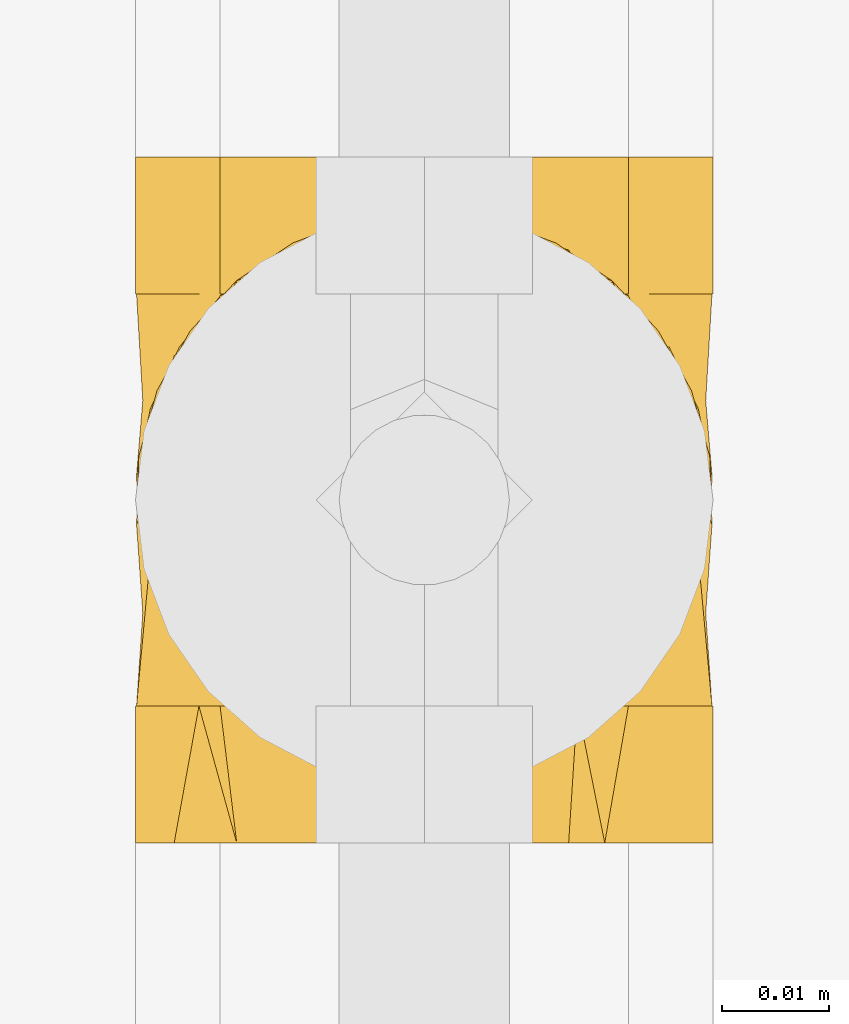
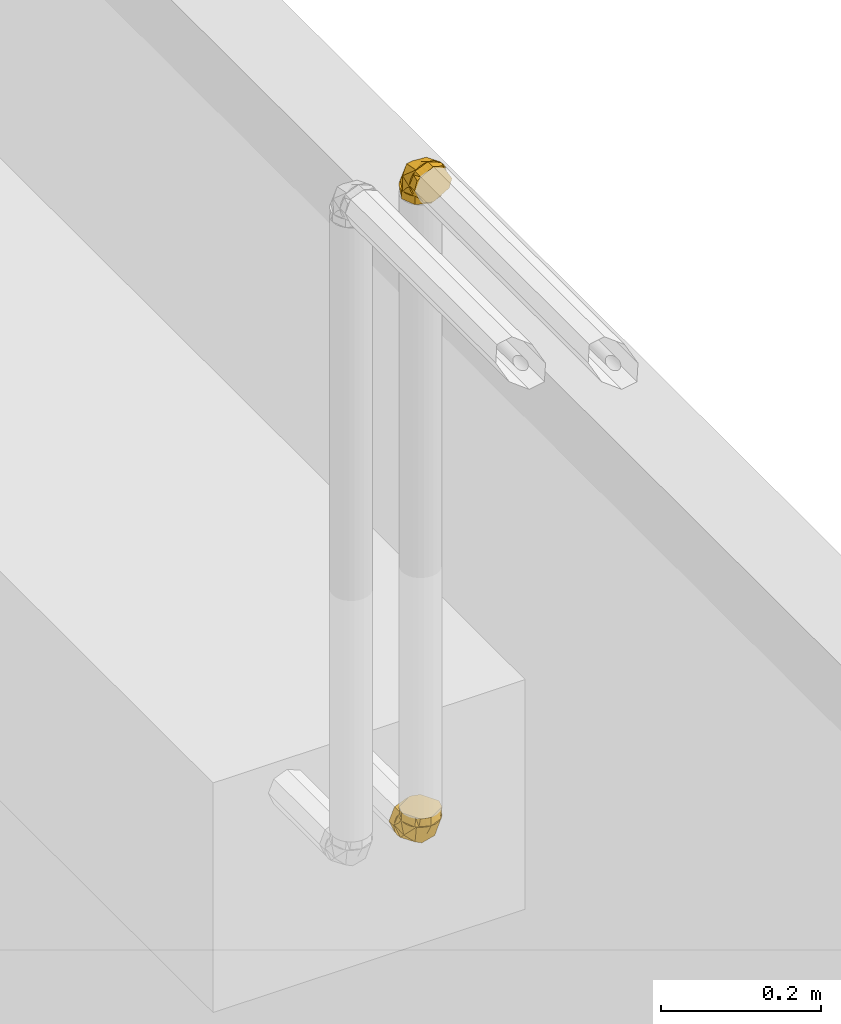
# One storey, part 370 of 652: 2 coverings.
"""IFC2X3 building model written with IfcOpenShell, lengths in millimetres."""

from ifc_helpers import new_model, entity, si_unit, converted_unit, direction, frame, origin, place, context, subcontext, project, spatial, face_set, surface_model, material, type_object, element, save


model = new_model("IFC2X3")

# Units and contexts
model_context = context("Model", 3, precision=0.01, world=frame((0.0, 0.0, 308426.39999999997)), true_north=direction((6.123233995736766e-17, 1.0)))
plan_context = context("Plan", 3, precision=0.01, world=frame((0.0, 0.0, 308426.39999999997)), true_north=direction((6.123233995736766e-17, 1.0)))
body_context = subcontext(model_context, "Body", "Model", "MODEL_VIEW")
ifc_project = project(units=[si_unit("LENGTHUNIT", "METRE", prefix="MILLI"), si_unit("AREAUNIT", "SQUARE_METRE"), si_unit("VOLUMEUNIT", "CUBIC_METRE"), converted_unit("PLANEANGLEUNIT", "DEGREE", entity("IfcPlaneAngleMeasure", 0.017453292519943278), si_unit("PLANEANGLEUNIT", "RADIAN"), dimensions=[0, 0, 0, 0, 0, 0, 0])], contexts=[model_context, plan_context])

# Site, building, storey
site_placement = place(None, origin())
site = spatial("IfcSite", under=ifc_project, at=site_placement, Name="Default", CompositionType="ELEMENT")
building_placement = place(site_placement, origin())
building = spatial("IfcBuilding", under=site, at=building_placement, CompositionType="ELEMENT")
storey_placement = place(building_placement, frame((0.0, 0.0, 1730.6999999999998)))
storey = spatial("IfcBuildingStorey", under=building, at=storey_placement, Name="EG_Produktion_FFB", CompositionType="ELEMENT", Elevation=1730.6999999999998)

# Coverings
ifc_material = material(Name="Dämmung - Armaflex-Schlauch")
covering_type = type_object("IfcCoveringType", Name="Rohrdämmung außen:Armaflex-Schlauch", PredefinedType="INSULATION")
covering_1_placement = place(storey_placement, frame((66196.95799511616, 42487.64333489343, 2731.983750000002)))
element("IfcCovering", 1, at=covering_1_placement, inside=storey, type_object=covering_type, material=ifc_material, Name="Rohrdämmung außen:Armaflex-Schlauch", ObjectType="Rohrdämmung außen:Armaflex-Schlauch", PredefinedType="INSULATION", context=body_context, shape_type="SurfaceModel", body=[
    surface_model("IfcFaceBasedSurfaceModel", [(47.409122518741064, 47.75027223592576, -12.766249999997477), (5.678961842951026, 47.75027223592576, -17.724287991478), (2.973980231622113, 47.75027223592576, -23.47627931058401), (1.6920879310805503, 47.75027223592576, -29.701958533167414), (1.904659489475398, 47.75027223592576, -36.05468574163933), (3.599859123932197, 47.75027223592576, -42.180747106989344), (6.683299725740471, 47.75027223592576, -47.739049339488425), (10.983298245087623, 47.750272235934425, -52.42011143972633), (16.26043484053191, 47.750272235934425, -55.96329630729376), (22.220883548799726, 47.750272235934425, -58.17132276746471), (28.532772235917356, 47.750272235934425, -58.9212499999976), (34.844660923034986, 47.750272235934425, -58.17132276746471), (40.8051096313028, 47.750272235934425, -55.96329630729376), (46.08224622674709, 47.750272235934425, -52.42011143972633), (50.38224474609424, 47.75027223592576, -47.739049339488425), (53.465685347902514, 47.75027223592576, -42.180747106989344), (55.16088498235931, 47.75027223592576, -36.05468574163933), (55.37345654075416, 47.75027223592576, -29.701958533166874), (54.0915642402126, 47.75027223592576, -23.47627931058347), (51.38658262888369, 47.75027223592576, -17.724287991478), (9.65642195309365, 47.75027223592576, -12.766249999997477), (51.38658262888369, 42.79223424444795, -12.766249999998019), (54.0915642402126, 37.040242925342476, -12.766249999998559), (55.37345654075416, 30.81456370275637, -12.766249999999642), (55.16088498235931, 24.461836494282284, -12.766250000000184), (53.465685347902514, 18.33577512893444, -12.766250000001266), (50.38224474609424, 12.77747289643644, -12.766250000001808), (46.08224622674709, 8.09641079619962, -12.76625000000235), (40.8051096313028, 4.553225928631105, -12.766250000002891), (34.844660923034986, 2.345199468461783, -12.766250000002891), (28.532772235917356, 1.5952722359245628, -12.766250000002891), (22.220883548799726, 2.345199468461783, -12.766250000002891), (16.26043484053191, 4.553225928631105, -12.766250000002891), (10.983298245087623, 8.09641079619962, -12.76625000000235), (6.683299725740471, 12.77747289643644, -12.766250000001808), (3.599859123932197, 18.33577512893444, -12.766250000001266), (1.904659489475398, 24.461836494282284, -12.766250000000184), (1.6920879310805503, 30.81456370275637, -12.766249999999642), (2.973980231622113, 37.040242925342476, -12.766249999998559), (5.678961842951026, 42.79223424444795, -12.766249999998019), (54.78877002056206, 37.80747077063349, -21.446698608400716), (28.534558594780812, 24.673388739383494, -52.73752120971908), (50.72855273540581, 47.751049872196, -41.06090835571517), (53.46792041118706, 26.952319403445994, -33.56543563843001), (42.78020068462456, 17.334301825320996, -41.84167465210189), (28.534558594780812, 12.139270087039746, -31.029834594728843), (50.72855273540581, 19.455102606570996, -12.766123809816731), (14.28426562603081, 17.334301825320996, -41.84167465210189), (3.6011967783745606, 26.952319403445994, -33.56543563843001), (2.2756962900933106, 37.80747077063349, -21.446698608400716), (6.335913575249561, 19.455102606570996, -12.766123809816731), (6.335913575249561, 47.751049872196, -41.06090835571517), (28.532772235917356, 60.516522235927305, -58.92125000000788), (23.770850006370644, 60.516522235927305, -56.94879722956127), (19.008927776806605, 60.516522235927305, -54.97634445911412), (14.247005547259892, 60.516522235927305, -53.00389168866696), (9.485083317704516, 60.516522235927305, -51.03143891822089), (7.512630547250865, 60.516522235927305, -46.26951668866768), (5.540177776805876, 60.516522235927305, -41.50759445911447), (3.567725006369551, 60.516522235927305, -36.74567222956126), (1.5952722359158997, 60.516522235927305, -31.98375000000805), (3.567725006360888, 60.516522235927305, -27.22182777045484), (5.540177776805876, 60.516522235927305, -22.45990554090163), (7.512630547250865, 60.516522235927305, -17.697983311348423), (9.485083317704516, 60.516522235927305, -12.936061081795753), (14.247005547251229, 60.516522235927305, -10.963608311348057), (19.008927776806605, 60.516522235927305, -8.991155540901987), (23.770850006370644, 60.516522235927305, -7.018702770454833), (28.532772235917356, 60.516522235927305, -5.04625000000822), (33.29469446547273, 60.516522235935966, -7.018702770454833), (38.056616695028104, 60.516522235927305, -8.991155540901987), (42.81853892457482, 60.516522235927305, -10.963608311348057), (47.5804611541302, 60.516522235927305, -12.936061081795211), (49.55291392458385, 60.516522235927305, -17.69798331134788), (51.525366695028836, 60.516522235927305, -22.45990554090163), (53.497819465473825, 60.516522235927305, -27.22182777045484), (55.47027223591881, 60.516522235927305, -31.98375000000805), (53.497819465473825, 60.516522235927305, -36.74567222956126), (51.525366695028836, 60.516522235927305, -41.50759445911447), (49.55291392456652, 60.516522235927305, -46.26951668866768), (47.5804611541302, 60.516522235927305, -51.03143891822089), (42.81853892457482, 60.516522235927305, -53.00389168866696), (38.056616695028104, 60.516522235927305, -54.97634445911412), (33.29469446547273, 60.516522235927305, -56.94879722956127), (28.532772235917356, 47.75027223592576, -58.92125000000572), (33.29469446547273, 47.75027223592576, -56.94879722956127), (38.056616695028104, 47.75027223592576, -54.97634445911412), (42.81853892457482, 47.75027223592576, -53.00389168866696), (47.5804611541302, 47.75027223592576, -51.031438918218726), (49.96980627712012, 47.75027223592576, -45.26304951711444), (52.35915140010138, 47.75027223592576, -39.494660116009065), (55.47027223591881, 47.75027223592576, -31.983750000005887), (53.497819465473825, 47.75027223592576, -27.221827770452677), (51.525366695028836, 47.75027223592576, -22.459905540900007), (49.552913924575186, 47.75027223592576, -17.69798331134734), (47.5804611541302, 47.75027223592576, -12.936061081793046), (41.81207175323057, 47.75027223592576, -10.546715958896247), (36.04368235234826, 47.75027223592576, -8.157370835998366), (28.532772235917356, 47.75027223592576, -5.0462500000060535), (23.77085000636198, 47.75027223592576, -7.018702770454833), (19.008927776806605, 47.75027223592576, -8.991155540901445), (14.247005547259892, 47.75027223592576, -10.963608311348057), (9.485083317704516, 47.75027223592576, -12.936061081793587), (7.095738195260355, 47.75027223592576, -18.70445048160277), (4.706393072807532, 47.75027223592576, -24.472839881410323), (1.5952722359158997, 47.75027223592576, -31.983750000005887), (3.567725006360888, 47.75027223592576, -36.7456722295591), (5.540177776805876, 47.75027223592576, -41.507594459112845), (7.512630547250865, 47.75027223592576, -46.2695166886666), (9.485083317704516, 47.75027223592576, -51.031438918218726), (15.253472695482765, 47.75027223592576, -53.42078403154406), (21.021862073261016, 47.75027223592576, -55.8101291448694), (28.532772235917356, 1.5952722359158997, 0.0), (34.36491206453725, 4.962459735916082, 0.0), (40.197051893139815, 8.329647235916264, 0.0), (46.029191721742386, 11.696834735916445, 0.0), (51.86133155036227, 15.064022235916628, 0.0), (53.66580189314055, 21.79839723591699, 0.0), (55.47027223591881, 28.532772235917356, 0.0), (52.10308473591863, 34.36491206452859, 0.0), (48.73589723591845, 40.197051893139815, 0.0), (45.368709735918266, 46.02919172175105, 0.0), (42.00152223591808, 51.86133155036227, 0.0), (35.26714723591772, 53.66580189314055, 0.0), (28.532772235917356, 55.47027223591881, 0.0), (22.700632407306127, 52.10308473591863, 0.0), (16.868492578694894, 48.73589723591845, 0.0), (11.036352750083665, 45.368709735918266, 0.0), (5.204212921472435, 42.00152223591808, 0.0), (3.3997425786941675, 35.26714723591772, 0.0), (1.5952722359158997, 28.532772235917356, 0.0), (4.962459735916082, 22.700632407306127, 0.0), (8.329647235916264, 16.868492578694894, 0.0), (11.696834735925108, 11.036352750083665, 0.0), (15.064022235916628, 5.204212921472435, 0.0), (21.79839723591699, 3.3997425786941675, 0.0), (28.532772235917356, 1.5952722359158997, -12.766249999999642), (23.77085000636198, 3.567725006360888, -12.766249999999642), (19.008927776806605, 5.54017777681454, -12.766249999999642), (14.247005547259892, 7.512630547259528, -12.766249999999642), (9.485083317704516, 9.485083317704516, -12.766249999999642), (7.512630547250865, 14.247005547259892, -12.766249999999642), (5.540177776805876, 19.008927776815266, -12.766249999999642), (3.567725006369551, 23.77085000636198, -12.766249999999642), (1.5952722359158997, 28.532772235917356, -12.766249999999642), (3.567725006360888, 33.29469446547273, -12.766249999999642), (5.540177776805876, 38.05661669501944, -12.766249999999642), (7.512630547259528, 42.81853892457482, -12.766249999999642), (9.485083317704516, 47.5804611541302, -12.766249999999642), (14.247005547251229, 49.552913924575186, -12.766249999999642), (19.008927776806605, 51.525366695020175, -12.766249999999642), (23.770850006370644, 53.49781946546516, -12.766249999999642), (28.532772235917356, 55.47027223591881, -12.766249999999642), (33.29469446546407, 53.497819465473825, -12.766249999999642), (38.056616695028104, 51.525366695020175, -12.766249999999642), (42.818538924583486, 49.552913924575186, -12.766249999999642), (47.5804611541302, 47.5804611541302, -12.766249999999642), (49.552913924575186, 42.81853892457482, -12.766249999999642), (51.525366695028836, 38.05661669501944, -12.766249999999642), (53.497819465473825, 33.29469446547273, -12.766249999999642), (55.47027223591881, 28.532772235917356, -12.766249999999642), (53.497819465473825, 23.77085000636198, -12.766249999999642), (51.525366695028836, 19.008927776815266, -12.766249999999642), (49.552913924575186, 14.247005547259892, -12.766249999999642), (47.5804611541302, 9.485083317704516, -12.766249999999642), (42.81853892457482, 7.512630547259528, -12.766249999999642), (38.056616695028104, 5.54017777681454, -12.766249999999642), (33.29469446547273, 3.567725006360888, -12.766249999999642)], [face_set([[[0, 1, 2, 3, 4, 5, 6, 7, 8, 9, 10, 11, 12, 13, 14, 15, 16, 17, 18, 19]], [[20, 21, 22, 23, 24, 25, 26, 27, 28, 29, 30, 31, 32, 33, 34, 35, 36, 37, 38, 39]], [[0, 40, 17]], [[10, 13, 41]], [[42, 17, 43]], [[40, 43, 17]], [[23, 40, 0]], [[13, 43, 44]], [[45, 41, 44]], [[13, 44, 41]], [[27, 30, 45]], [[45, 44, 27]], [[43, 27, 44]], [[43, 23, 46, 27]], [[43, 13, 42]], [[23, 43, 40]], [[7, 10, 41]], [[33, 47, 45]], [[45, 30, 33]], [[48, 47, 33]], [[49, 48, 37]], [[48, 50, 37]], [[45, 47, 41]], [[20, 49, 37]], [[47, 48, 7]], [[3, 49, 20]], [[41, 47, 7]], [[48, 3, 51]], [[48, 33, 50]], [[3, 48, 49]], [[51, 7, 48]]]), face_set([[[52, 53, 54, 55, 56, 57, 58, 59, 60, 61, 62, 63, 64, 65, 66, 67, 68, 69, 70, 71, 72, 73, 74, 75, 76, 77, 78, 79, 80, 81, 82, 83]], [[84, 85, 86, 87, 88, 89, 90, 91, 92, 93, 94, 95, 96, 97, 98, 99, 100, 101, 102, 103, 104, 105, 106, 107, 108, 109, 110, 111]], [[111, 110, 109, 56, 55, 54, 53, 52, 84]], [[56, 109, 108, 107, 106, 105, 60, 59, 58, 57]], [[104, 103, 102, 64, 63, 62, 61, 60, 105]], [[64, 102, 101, 100, 99, 98, 68, 67, 66, 65]], [[97, 96, 95, 72, 71, 70, 69, 68, 98]], [[72, 95, 94, 93, 92, 91, 76, 75, 74, 73]], [[90, 89, 88, 80, 79, 78, 77, 76, 91]], [[80, 88, 87, 86, 85, 84, 52, 83, 82, 81]]]), face_set([[[112, 113, 114, 115, 116, 117, 118, 119, 120, 121, 122, 123, 124, 125, 126, 127, 128, 129, 130, 131, 132, 133, 134, 135]], [[136, 137, 138, 139, 140, 141, 142, 143, 144, 145, 146, 147, 148, 149, 150, 151, 152, 153, 154, 155, 156, 157, 158, 159, 160, 161, 162, 163, 164, 165, 166, 167]], [[155, 121, 156]], [[118, 159, 119]], [[159, 158, 119]], [[123, 154, 153]], [[153, 152, 124]], [[121, 155, 122]], [[120, 158, 157]], [[118, 160, 159]], [[158, 120, 119]], [[124, 123, 153]], [[157, 156, 121]], [[155, 154, 122]], [[123, 122, 154]], [[120, 157, 121]], [[163, 115, 164]], [[112, 167, 113]], [[167, 166, 113]], [[117, 162, 161]], [[161, 160, 118]], [[115, 163, 116]], [[114, 166, 165]], [[112, 136, 167]], [[166, 114, 113]], [[118, 117, 161]], [[165, 164, 115]], [[163, 162, 116]], [[117, 116, 162]], [[114, 165, 115]], [[139, 133, 140]], [[130, 143, 131]], [[143, 142, 131]], [[135, 138, 137]], [[137, 136, 112]], [[133, 139, 134]], [[132, 142, 141]], [[130, 144, 143]], [[142, 132, 131]], [[112, 135, 137]], [[141, 140, 133]], [[139, 138, 134]], [[135, 134, 138]], [[132, 141, 133]], [[147, 127, 148]], [[124, 151, 125]], [[151, 150, 125]], [[129, 146, 145]], [[145, 144, 130]], [[127, 147, 128]], [[126, 150, 149]], [[124, 152, 151]], [[150, 126, 125]], [[130, 129, 145]], [[149, 148, 127]], [[147, 146, 128]], [[129, 128, 146]], [[126, 149, 127]]])]),
])
covering_2_placement = place(storey_placement, frame((66196.95799511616, 42484.19235712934, 3728.532772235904)))
element("IfcCovering", 2, at=covering_2_placement, inside=storey, type_object=covering_type, material=ifc_material, Name="Rohrdämmung außen:Armaflex-Schlauch", ObjectType="Rohrdämmung außen:Armaflex-Schlauch", PredefinedType="INSULATION", context=body_context, shape_type="SurfaceModel", body=[
    surface_model("IfcFaceBasedSurfaceModel", [(9.65642195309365, 12.766249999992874, -47.750272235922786), (5.678961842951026, 17.724287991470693, -47.75027223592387), (2.973980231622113, 23.47627931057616, -47.75027223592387), (1.6920879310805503, 29.70195853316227, -47.75027223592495), (1.904659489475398, 36.054685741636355, -47.75027223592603), (3.599859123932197, 42.1807471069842, -47.75027223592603), (6.683299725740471, 47.7390493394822, -47.75027223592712), (10.983298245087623, 52.420111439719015, -47.75027223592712), (16.26043484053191, 55.963296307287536, -47.7502722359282), (22.220883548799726, 58.17132276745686, -47.7502722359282), (28.532772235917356, 58.921249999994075, -47.7502722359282), (34.844660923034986, 58.17132276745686, -47.7502722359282), (40.8051096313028, 55.963296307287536, -47.7502722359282), (46.08224622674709, 52.420111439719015, -47.75027223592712), (50.38224474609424, 47.7390493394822, -47.75027223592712), (53.465685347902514, 42.1807471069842, -47.75027223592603), (55.16088498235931, 36.054685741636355, -47.75027223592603), (55.37345654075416, 29.70195853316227, -47.75027223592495), (54.0915642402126, 23.47627931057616, -47.75027223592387), (51.38658262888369, 17.724287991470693, -47.75027223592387), (47.409122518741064, 12.766249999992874, -47.750272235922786), (51.38658262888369, 12.766249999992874, -42.79223424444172), (54.0915642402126, 12.766249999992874, -37.04024292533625), (55.37345654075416, 12.766249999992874, -30.814563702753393), (55.16088498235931, 12.766249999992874, -24.46183649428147), (53.465685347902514, 12.766249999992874, -18.33577512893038), (50.38224474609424, 12.766249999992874, -12.777472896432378), (46.08224622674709, 12.766250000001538, -8.096410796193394), (40.8051096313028, 12.766250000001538, -4.553225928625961), (34.844660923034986, 12.766250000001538, -2.3451994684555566), (28.532772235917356, 12.766250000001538, -1.5952722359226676), (22.220883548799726, 12.766250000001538, -2.3451994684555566), (16.26043484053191, 12.766250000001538, -4.553225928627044), (10.983298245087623, 12.766250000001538, -8.096410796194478), (6.683299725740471, 12.766249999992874, -12.777472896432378), (3.599859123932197, 12.766249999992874, -18.33577512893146), (1.904659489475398, 12.766249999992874, -24.46183649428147), (1.6920879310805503, 12.766249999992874, -30.814563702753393), (2.973980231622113, 12.766249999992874, -37.04024292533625), (5.678961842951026, 12.766249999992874, -42.7922342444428), (2.2756962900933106, 21.445704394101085, -37.80729463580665), (28.534558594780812, 52.736817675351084, -24.672631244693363), (6.335913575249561, 41.063111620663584, -47.750292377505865), (3.6011967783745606, 33.56589482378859, -26.950980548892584), (14.28426562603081, 41.839808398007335, -17.332381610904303), (28.534558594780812, 31.031165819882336, -12.139675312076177), (6.335913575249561, 12.767164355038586, -19.455507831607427), (42.78020068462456, 41.839808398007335, -17.332381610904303), (53.46792041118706, 33.56589482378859, -26.950980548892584), (54.78877002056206, 21.445704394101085, -37.80729463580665), (50.72855273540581, 12.767164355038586, -19.455507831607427), (50.72855273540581, 41.063111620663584, -47.750292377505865), (14.247005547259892, 53.00389168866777, -60.51652223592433), (19.008927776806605, 54.97634445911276, -60.51652223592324), (23.77085000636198, 56.948797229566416, -60.51652223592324), (28.532772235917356, 58.921250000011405, -60.51652223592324), (33.29469446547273, 56.94879722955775, -60.51652223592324), (38.056616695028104, 54.97634445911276, -60.51652223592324), (42.818538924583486, 53.00389168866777, -60.51652223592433), (47.5804611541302, 51.03143891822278, -60.51652223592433), (49.55291392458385, 46.26951668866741, -60.51652223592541), (51.525366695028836, 41.507594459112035, -60.51652223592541), (53.497819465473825, 36.74567222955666, -60.51652223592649), (55.47027223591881, 31.983750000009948, -60.516522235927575), (53.497819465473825, 27.221827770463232, -60.516522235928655), (51.525366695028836, 22.459905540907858, -60.51652223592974), (49.552913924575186, 17.697983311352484, -60.51652223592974), (47.5804611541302, 12.936061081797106, -60.51652223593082), (42.818538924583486, 10.963608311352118, -60.51652223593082), (38.056616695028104, 8.99115554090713, -60.5165222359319), (33.29469446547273, 7.018702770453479, -60.5165222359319), (28.532772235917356, 5.046250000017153, -60.5165222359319), (23.77085000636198, 7.018702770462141, -60.5165222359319), (19.008927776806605, 8.99115554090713, -60.5165222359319), (14.247005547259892, 10.963608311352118, -60.51652223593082), (9.485083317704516, 12.936061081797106, -60.51652223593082), (7.512630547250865, 17.697983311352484, -60.51652223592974), (5.540177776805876, 22.459905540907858, -60.51652223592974), (3.567725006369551, 27.22182777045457, -60.516522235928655), (1.5952722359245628, 31.983750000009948, -60.516522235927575), (3.567725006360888, 36.74567222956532, -60.516522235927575), (5.540177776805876, 41.507594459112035, -60.51652223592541), (7.512630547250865, 46.26951668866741, -60.51652223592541), (9.485083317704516, 51.03143891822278, -60.51652223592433), (28.532772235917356, 58.92125000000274, -47.75027223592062), (23.77085000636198, 56.948797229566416, -47.75027223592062), (19.008927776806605, 54.97634445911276, -47.750272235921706), (14.247005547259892, 53.00389168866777, -47.750272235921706), (9.485083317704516, 51.03143891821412, -47.750272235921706), (7.095738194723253, 45.26304951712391, -47.750272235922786), (4.706393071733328, 39.49466011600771, -47.75027223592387), (1.5952722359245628, 31.983750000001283, -47.75027223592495), (3.567725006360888, 27.22182777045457, -47.75027223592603), (5.540177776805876, 22.459905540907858, -47.75027223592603), (7.512630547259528, 17.697983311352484, -47.7502722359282), (9.485083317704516, 12.936061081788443, -47.7502722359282), (15.253472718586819, 10.546715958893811, -47.7502722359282), (21.021862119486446, 8.157370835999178, -47.75027223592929), (28.532772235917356, 5.046250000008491, -47.75027223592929), (33.29469446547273, 7.018702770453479, -47.75027223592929), (38.056616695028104, 8.99115554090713, -47.7502722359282), (42.81853892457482, 10.963608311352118, -47.7502722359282), (47.5804611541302, 12.936061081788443, -47.7502722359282), (49.96980627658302, 18.704450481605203, -47.75027223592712), (52.359151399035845, 24.472839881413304, -47.75027223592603), (55.47027223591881, 31.983750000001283, -47.75027223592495), (53.497819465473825, 36.74567222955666, -47.75027223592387), (51.525366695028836, 41.507594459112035, -47.75027223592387), (49.552913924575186, 46.26951668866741, -47.750272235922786), (47.5804611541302, 51.03143891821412, -47.750272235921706), (41.81207177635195, 53.420784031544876, -47.750272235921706), (36.0436823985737, 55.81012914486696, -47.75027223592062), (28.532772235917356, 0.0, -1.5952722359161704), (22.70063240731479, 0.0, -4.962459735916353), (16.868492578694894, 0.0, -8.329647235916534), (11.036352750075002, 0.0, -11.696834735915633), (5.204212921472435, 0.0, -15.064022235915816), (3.3997425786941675, 0.0, -21.79839723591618), (1.5952722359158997, 0.0, -28.532772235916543), (4.962459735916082, 0.0, -34.36491206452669), (8.329647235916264, 0.0, -40.197051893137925), (11.696834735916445, 0.0, -46.02919172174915), (15.064022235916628, 0.0, -51.861331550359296), (21.79839723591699, 0.0, -53.66580189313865), (28.532772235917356, 0.0, -55.470272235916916), (34.36491206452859, 0.0, -52.10308473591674), (40.197051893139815, 0.0, -48.73589723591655), (46.02919172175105, 0.0, -45.36870973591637), (51.86133155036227, 0.0, -42.00152223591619), (53.66580189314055, 0.0, -35.26714723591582), (55.47027223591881, 0.0, -28.532772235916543), (52.10308473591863, 0.0, -22.700632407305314), (48.73589723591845, 0.0, -16.868492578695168), (45.36870973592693, 0.0, -11.036352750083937), (42.00152223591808, 0.0, -5.204212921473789), (35.26714723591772, 0.0, -3.3997425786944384), (28.532772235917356, 12.766250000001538, -1.5952722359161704), (33.29469446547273, 12.766250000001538, -3.567725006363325), (38.056616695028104, 12.766250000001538, -5.540177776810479), (42.81853892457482, 12.766250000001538, -7.512630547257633), (47.5804611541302, 12.766250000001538, -9.485083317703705), (49.55291392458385, 12.766250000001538, -14.247005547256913), (51.525366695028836, 12.766250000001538, -19.008927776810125), (53.497819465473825, 12.766250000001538, -23.770850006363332), (55.47027223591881, 12.766250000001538, -28.532772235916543), (53.497819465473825, 12.766250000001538, -33.29469446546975), (51.525366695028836, 12.766250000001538, -38.05661669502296), (49.55291392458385, 12.766250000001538, -42.818538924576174), (47.5804611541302, 12.766250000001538, -47.58046115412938), (42.81853892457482, 12.766250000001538, -49.552913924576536), (38.056616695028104, 12.766250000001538, -51.52536669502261), (33.29469446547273, 12.766250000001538, -53.49781946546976), (28.532772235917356, 12.766250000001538, -55.470272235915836), (23.77085000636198, 12.766250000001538, -53.49781946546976), (19.008927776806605, 12.766250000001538, -51.52536669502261), (14.247005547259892, 12.766250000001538, -49.552913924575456), (9.485083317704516, 12.766250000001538, -47.58046115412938), (7.512630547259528, 12.766250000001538, -42.818538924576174), (5.540177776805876, 12.766250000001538, -38.05661669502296), (3.567725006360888, 12.766250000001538, -33.29469446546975), (1.5952722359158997, 12.766250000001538, -28.532772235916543), (3.567725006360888, 12.766250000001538, -23.770850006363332), (5.540177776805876, 12.766250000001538, -19.008927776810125), (7.512630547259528, 12.766250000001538, -14.247005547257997), (9.485083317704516, 12.766250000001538, -9.485083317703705), (14.247005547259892, 12.766250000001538, -7.512630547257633), (19.008927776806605, 12.766250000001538, -5.540177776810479), (23.77085000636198, 12.766250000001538, -3.567725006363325)], [face_set([[[0, 1, 2, 3, 4, 5, 6, 7, 8, 9, 10, 11, 12, 13, 14, 15, 16, 17, 18, 19]], [[20, 21, 22, 23, 24, 25, 26, 27, 28, 29, 30, 31, 32, 33, 34, 35, 36, 37, 38, 39]], [[0, 40, 3]], [[10, 7, 41]], [[42, 3, 43]], [[40, 43, 3]], [[37, 40, 0]], [[7, 43, 44]], [[45, 41, 44]], [[7, 44, 41]], [[33, 30, 45]], [[45, 44, 33]], [[43, 33, 44]], [[43, 37, 46]], [[43, 7, 42]], [[37, 43, 40]], [[46, 33, 43]], [[13, 10, 41]], [[27, 47, 45]], [[45, 30, 27]], [[48, 47, 27]], [[49, 48, 23]], [[50, 23, 48, 27]], [[45, 47, 41]], [[20, 49, 23]], [[47, 48, 13]], [[17, 49, 20]], [[41, 47, 13]], [[48, 17, 51]], [[17, 48, 49]], [[51, 13, 48]]]), face_set([[[52, 53, 54, 55, 56, 57, 58, 59, 60, 61, 62, 63, 64, 65, 66, 67, 68, 69, 70, 71, 72, 73, 74, 75, 76, 77, 78, 79, 80, 81, 82, 83]], [[84, 85, 86, 87, 88, 89, 90, 91, 92, 93, 94, 95, 96, 97, 98, 99, 100, 101, 102, 103, 104, 105, 106, 107, 108, 109, 110, 111]], [[111, 110, 109, 59, 58, 57, 56, 55, 84]], [[59, 109, 108, 107, 106, 105, 63, 62, 61, 60]], [[104, 103, 102, 67, 66, 65, 64, 63, 105]], [[67, 102, 101, 100, 99, 98, 71, 70, 69, 68]], [[97, 96, 95, 75, 74, 73, 72, 71, 98]], [[75, 95, 94, 93, 92, 91, 79, 78, 77, 76]], [[90, 89, 88, 83, 82, 81, 80, 79, 91]], [[83, 88, 87, 86, 85, 84, 55, 54, 53, 52]]]), face_set([[[112, 113, 114, 115, 116, 117, 118, 119, 120, 121, 122, 123, 124, 125, 126, 127, 128, 129, 130, 131, 132, 133, 134, 135]], [[136, 137, 138, 139, 140, 141, 142, 143, 144, 145, 146, 147, 148, 149, 150, 151, 152, 153, 154, 155, 156, 157, 158, 159, 160, 161, 162, 163, 164, 165, 166, 167]], [[155, 121, 156]], [[118, 159, 119]], [[159, 158, 119]], [[123, 154, 153]], [[153, 152, 124]], [[121, 155, 122]], [[120, 158, 157]], [[118, 160, 159]], [[158, 120, 119]], [[124, 123, 153]], [[157, 156, 121]], [[155, 154, 122]], [[123, 122, 154]], [[120, 157, 121]], [[163, 115, 164]], [[112, 167, 113]], [[167, 166, 113]], [[117, 162, 161]], [[161, 160, 118]], [[115, 163, 116]], [[114, 166, 165]], [[112, 136, 167]], [[166, 114, 113]], [[118, 117, 161]], [[165, 164, 115]], [[163, 162, 116]], [[117, 116, 162]], [[114, 165, 115]], [[139, 133, 140]], [[130, 143, 131]], [[143, 142, 131]], [[135, 138, 137]], [[137, 136, 112]], [[133, 139, 134]], [[132, 142, 141]], [[130, 144, 143]], [[142, 132, 131]], [[112, 135, 137]], [[141, 140, 133]], [[139, 138, 134]], [[135, 134, 138]], [[132, 141, 133]], [[147, 127, 148]], [[124, 151, 125]], [[151, 150, 125]], [[129, 146, 145]], [[145, 144, 130]], [[127, 147, 128]], [[126, 150, 149]], [[124, 152, 151]], [[150, 126, 125]], [[130, 129, 145]], [[149, 148, 127]], [[147, 146, 128]], [[129, 128, 146]], [[126, 149, 127]]])]),
])

save(model, "model.ifc")
